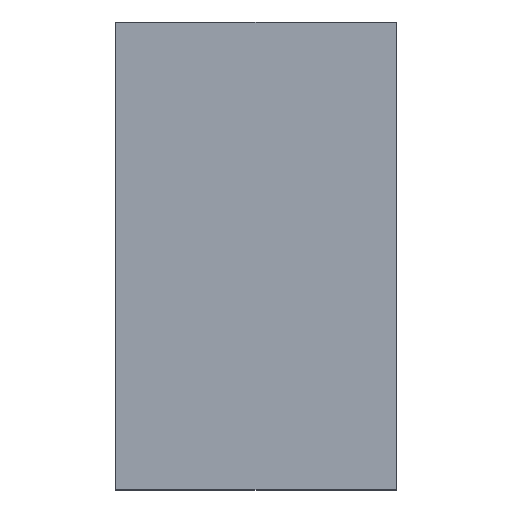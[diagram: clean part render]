
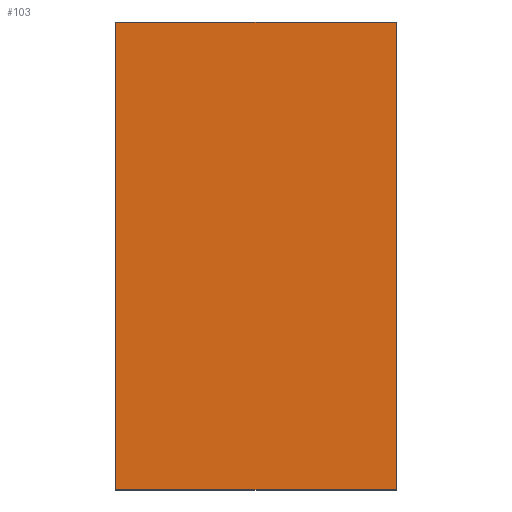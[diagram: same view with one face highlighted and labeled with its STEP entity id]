
A CAD part, top view. The second image highlights one B-rep face of the part: STEP entity #103.
In plain terms, the highlighted planar face has unit normal (0, 0, 1).
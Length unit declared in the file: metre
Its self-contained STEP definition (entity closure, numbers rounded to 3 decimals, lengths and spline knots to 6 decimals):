
#32=ORIENTED_EDGE('',*,*,#36,.F.);
#33=ORIENTED_EDGE('',*,*,#40,.T.);
#34=ORIENTED_EDGE('',*,*,#43,.T.);
#35=ORIENTED_EDGE('',*,*,#46,.F.);
#36=EDGE_CURVE('',#48,#49,#56,.T.);
#40=EDGE_CURVE('',#48,#52,#60,.T.);
#43=EDGE_CURVE('',#52,#54,#63,.T.);
#46=EDGE_CURVE('',#49,#54,#66,.T.);
#48=VERTEX_POINT('',#152);
#49=VERTEX_POINT('',#153);
#52=VERTEX_POINT('',#161);
#54=VERTEX_POINT('',#167);
#56=LINE('',#151,#68);
#60=LINE('',#160,#72);
#63=LINE('',#166,#75);
#66=LINE('',#172,#78);
#68=VECTOR('',#127,1.);
#72=VECTOR('',#133,1.);
#75=VECTOR('',#138,1.);
#78=VECTOR('',#143,1.);
#85=EDGE_LOOP('',(#32,#33,#34,#35));
#91=FACE_BOUND('',#85,.T.);
#97=PLANE('',#122);
#103=ADVANCED_FACE('',(#91),#97,.T.);
#122=AXIS2_PLACEMENT_3D('',#175,#147,#148);
#127=DIRECTION('',(1.,0.,0.));
#133=DIRECTION('',(0.,-1.,0.));
#138=DIRECTION('',(1.,0.,0.));
#143=DIRECTION('',(0.,-1.,0.));
#147=DIRECTION('',(0.,0.,1.));
#148=DIRECTION('',(1.,0.,0.));
#151=CARTESIAN_POINT('',(0.07492,0.02879,0.0045));
#152=CARTESIAN_POINT('',(0.04412,0.02879,0.0045));
#153=CARTESIAN_POINT('',(0.10572,0.02879,0.0045));
#160=CARTESIAN_POINT('',(0.04412,-0.055885,0.0045));
#161=CARTESIAN_POINT('',(0.04412,-0.07401,0.0045));
#166=CARTESIAN_POINT('',(0.07492,-0.07401,0.0045));
#167=CARTESIAN_POINT('',(0.10572,-0.07401,0.0045));
#172=CARTESIAN_POINT('',(0.10572,-0.055885,0.0045));
#175=CARTESIAN_POINT('',(0.02832,-0.02261,0.0045));
